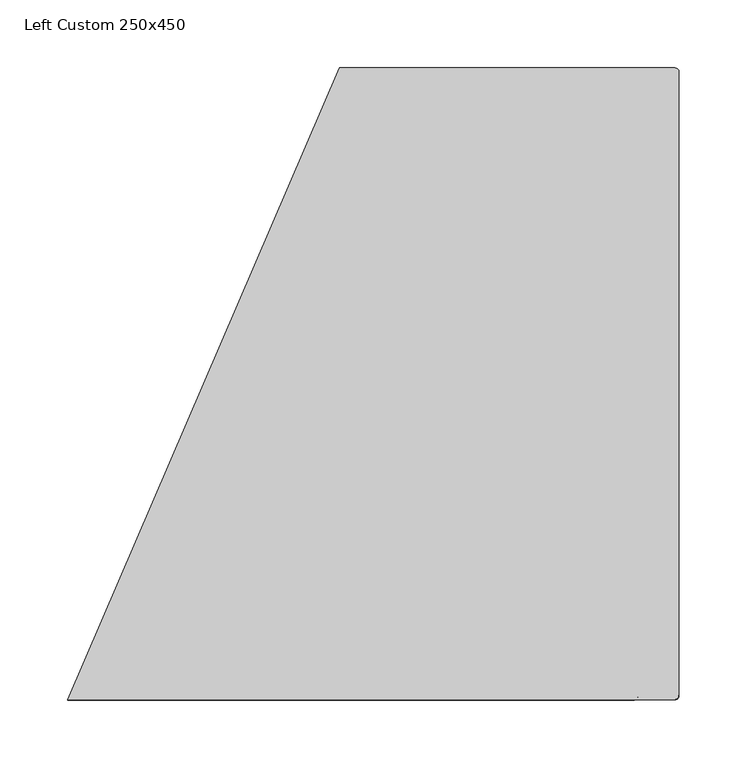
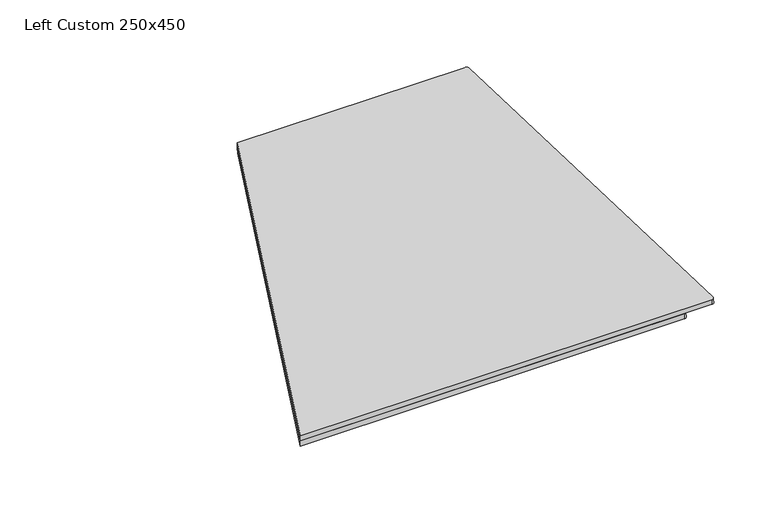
"""IFC4 building model written with IfcOpenShell, lengths in millimetres: proxy geometry, ML-PR-M-P-BLACK-N-CUSTOM : Left Custom 250x450."""

from ifc_helpers import new_model, si_unit, point, frame, frame_2d, origin, place, context, project, spatial, polyline, circle_curve, trimmed, segment, composite_curve, outline, extrude, source, transform, mapped, element, save


def left_custom_250x450_10dc3419(model_context):
    return source(origin(), model_context, "Body", "SweptSolid", [
        extrude(outline(composite_curve([segment(trimmed(circle_curve(frame_2d((247.0, -3.0)), 3.0), [point((247.0, 0.0))], [point((250.0, -3.0))], False, "CARTESIAN"), True, "CONTINUOUS"), segment(polyline([(250.0, -3.0), (250.0, -462.0)]), True, "CONTINUOUS"), segment(trimmed(circle_curve(frame_2d((247.0, -462.0)), 3.0), [point((250.0, -462.0))], [point((247.0, -465.0))], False, "CARTESIAN"), True, "CONTINUOUS"), segment(polyline([(247.0, -465.0), (-200.0, -465.0), (0.0, 0.0), (247.0, 0.0)]), True, "CONTINUOUS")], self_intersect=False)), frame((-251.0, 36.0799579, 4.8006671), z_axis=(0.0, 0.03331483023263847, 0.9994449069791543), x_axis=(1.0, 0.0, 0.0)), (0.0, 0.0, 1.0), 5.5),
        extrude(outline(composite_curve([segment(trimmed(circle_curve(frame_2d((217.0, -3.0)), 3.0), [point((217.0, 0.0))], [point((220.0, -3.0))], False, "CARTESIAN"), True, "CONTINUOUS"), segment(polyline([(220.0, -3.0), (220.0, -462.0)]), True, "CONTINUOUS"), segment(trimmed(circle_curve(frame_2d((217.0, -462.0)), 3.0), [point((220.0, -462.0))], [point((217.0, -465.0))], False, "CARTESIAN"), True, "CONTINUOUS"), segment(polyline([(217.0, -465.0), (-200.0, -465.0), (0.0, 0.0), (217.0, 0.0)]), True, "CONTINUOUS")], self_intersect=False)), frame((-251.0, 35.8800689, -1.1960023), z_axis=(0.0, 0.03331483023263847, 0.9994449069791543), x_axis=(1.0, 0.0, 0.0)), (0.0, 0.0, 1.0), 6.0),
    ])


if __name__ == "__main__":
    model = new_model("IFC4")
    model_context = context("Model", 3, world=origin())
    ifc_project = project(units=[si_unit("LENGTHUNIT", "METRE", prefix="MILLI")], contexts=[model_context])
    site = spatial("IfcSite", under=ifc_project)
    building = spatial("IfcBuilding", under=site)
    placement = place(None, origin())
    left_custom_250x450_shape = left_custom_250x450_10dc3419(model_context)
    element("IfcBuildingElementProxy", 1, Name="ML-PR-M-P-BLACK-N-CUSTOM : Left Custom 250x450", ObjectType="ML-PR-M-P-BLACK-N-CUSTOM : Left Custom 250x450", at=placement, inside=building, context=model_context, shape_type="MappedRepresentation", body=[
        mapped(left_custom_250x450_shape, transform((0.0, 0.0, 0.0), x_axis=(1.0, 0.0, 0.0), y_axis=(0.0, 1.0, 0.0), z_axis=(0.0, 0.0, 1.0))),
    ])
    save(model, "model.ifc")
